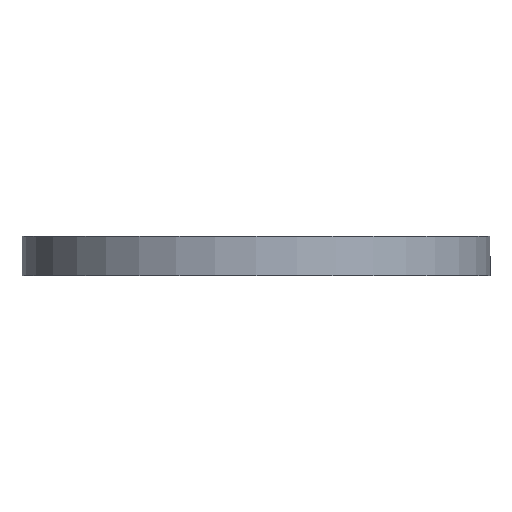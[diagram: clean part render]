
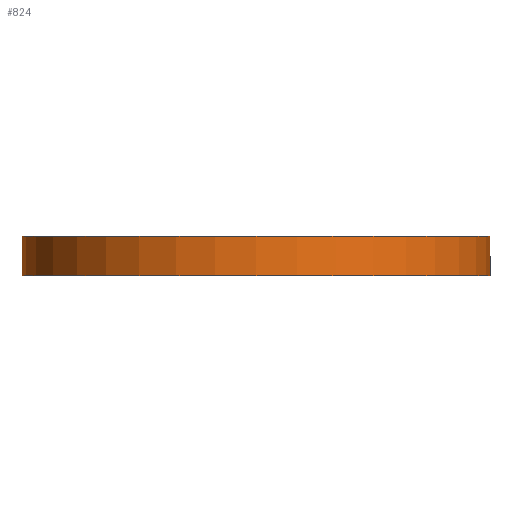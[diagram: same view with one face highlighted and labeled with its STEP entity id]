
A CAD part, front view. The second image highlights one B-rep face of the part: STEP entity #824.
In plain terms, the highlighted cylindrical face has radius 225 mm (diameter 450 mm), a partial arc.
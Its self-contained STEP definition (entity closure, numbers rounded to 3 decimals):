
#22 = VECTOR ( 'NONE', #290, 1000. ) ;
#27 = AXIS2_PLACEMENT_3D ( 'NONE', #204, #203, #202 ) ;
#32 = AXIS2_PLACEMENT_3D ( 'NONE', #283, #282, #281 ) ;
#57 = EDGE_CURVE ( 'NONE', #525, #573, #675, .T. ) ;
#82 = CIRCLE ( 'NONE', #32, 225. ) ;
#120 = CARTESIAN_POINT ( 'NONE',  ( -225., 0., -38. ) ) ;
#139 = VECTOR ( 'NONE', #500, 1000. ) ;
#202 = DIRECTION ( 'NONE',  ( 1., 0., 0. ) ) ;
#203 = DIRECTION ( 'NONE',  ( 0., 0., 1. ) ) ;
#204 = CARTESIAN_POINT ( 'NONE',  ( 0., 0., -115. ) ) ;
#205 = CYLINDRICAL_SURFACE ( 'NONE', #27, 225. ) ;
#206 = FACE_OUTER_BOUND ( 'NONE', #539, .T. ) ;
#214 = CARTESIAN_POINT ( 'NONE',  ( 225., 0., -38. ) ) ;
#281 = DIRECTION ( 'NONE',  ( 1., 0., 0. ) ) ;
#282 = DIRECTION ( 'NONE',  ( 0., 0., 1. ) ) ;
#283 = CARTESIAN_POINT ( 'NONE',  ( 0., 0., -38. ) ) ;
#290 = DIRECTION ( 'NONE',  ( 0., 0., 1. ) ) ;
#291 = CARTESIAN_POINT ( 'NONE',  ( -225., 0., -115. ) ) ;
#292 = LINE ( 'NONE', #291, #22 ) ;
#409 = CARTESIAN_POINT ( 'NONE',  ( 225., 0., 0. ) ) ;
#485 = CARTESIAN_POINT ( 'NONE',  ( -225., 0., 0. ) ) ;
#500 = DIRECTION ( 'NONE',  ( 0., 0., 1. ) ) ;
#525 = VERTEX_POINT ( 'NONE', #485 ) ;
#527 = EDGE_CURVE ( 'NONE', #819, #573, #744, .T. ) ;
#539 = EDGE_LOOP ( 'NONE', ( #922, #923, #924, #925 ) ) ;
#573 = VERTEX_POINT ( 'NONE', #409 ) ;
#631 = AXIS2_PLACEMENT_3D ( 'NONE', #671, #672, #686 ) ;
#671 = CARTESIAN_POINT ( 'NONE',  ( 0., 0., 0. ) ) ;
#672 = DIRECTION ( 'NONE',  ( 0., 0., 1. ) ) ;
#675 = CIRCLE ( 'NONE', #631, 225. ) ;
#686 = DIRECTION ( 'NONE',  ( 1., 0., 0. ) ) ;
#731 = EDGE_CURVE ( 'NONE', #914, #525, #292, .T. ) ;
#744 = LINE ( 'NONE', #747, #139 ) ;
#747 = CARTESIAN_POINT ( 'NONE',  ( 225., 0., -115. ) ) ;
#772 = EDGE_CURVE ( 'NONE', #914, #819, #82, .T. ) ;
#819 = VERTEX_POINT ( 'NONE', #214 ) ;
#824 = ADVANCED_FACE ( 'NONE', ( #206 ), #205, .T. ) ;
#914 = VERTEX_POINT ( 'NONE', #120 ) ;
#922 = ORIENTED_EDGE ( 'NONE', *, *, #731, .F. ) ;
#923 = ORIENTED_EDGE ( 'NONE', *, *, #772, .T. ) ;
#924 = ORIENTED_EDGE ( 'NONE', *, *, #527, .T. ) ;
#925 = ORIENTED_EDGE ( 'NONE', *, *, #57, .F. ) ;
